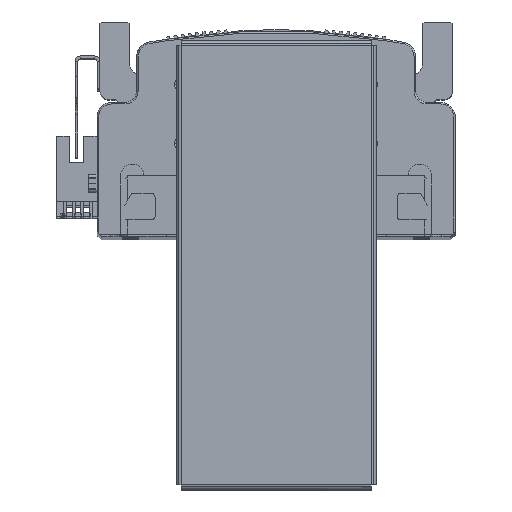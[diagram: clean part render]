
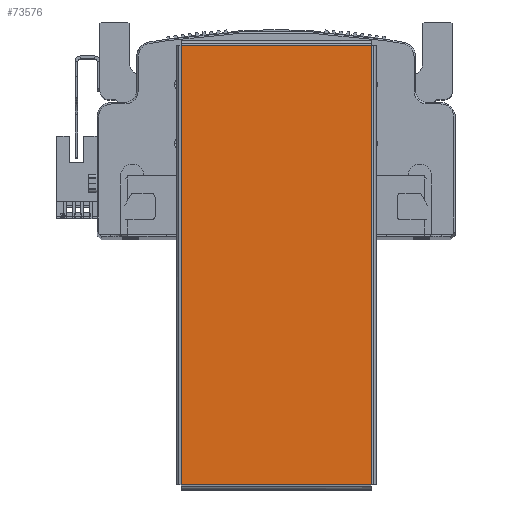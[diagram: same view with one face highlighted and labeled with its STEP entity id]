
A CAD part, top view. The second image highlights one B-rep face of the part: STEP entity #73576.
In plain terms, the highlighted planar face has unit normal (0, 0, 1) as drawn and (0, 0, -1) by its records, which use the part's own axes.
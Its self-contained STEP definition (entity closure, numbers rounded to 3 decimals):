
#2770 = EDGE_CURVE ( 'NONE', #13167, #13191, #32032, .T. ) ;
#2828 = EDGE_CURVE ( 'NONE', #13198, #13167, #64900, .T. ) ;
#2848 = EDGE_CURVE ( 'NONE', #13231, #13198, #64853, .T. ) ;
#2854 = EDGE_CURVE ( 'NONE', #13191, #13231, #64877, .T. ) ;
#8943 = CARTESIAN_POINT ( 'NONE',  ( 74.793, -32.363, -1. ) ) ;
#8944 = DIRECTION ( 'NONE',  ( -1., 0., 0. ) ) ;
#9251 = DIRECTION ( 'NONE',  ( 0., -1., 0. ) ) ;
#9317 = CARTESIAN_POINT ( 'NONE',  ( 74.763, 32.393, -1. ) ) ;
#9356 = DIRECTION ( 'NONE',  ( 1., 0., 0. ) ) ;
#9423 = CARTESIAN_POINT ( 'NONE',  ( -74.793, 32.363, -1. ) ) ;
#9459 = CARTESIAN_POINT ( 'NONE',  ( -74.763, -32.393, -1. ) ) ;
#9541 = DIRECTION ( 'NONE',  ( 0., 1., 0. ) ) ;
#13167 = VERTEX_POINT ( 'NONE', #48537 ) ;
#13191 = VERTEX_POINT ( 'NONE', #48670 ) ;
#13198 = VERTEX_POINT ( 'NONE', #48712 ) ;
#13231 = VERTEX_POINT ( 'NONE', #48795 ) ;
#31986 = VECTOR ( 'NONE', #8944, 1000. ) ;
#32032 = LINE ( 'NONE', #8943, #31986 ) ;
#40023 = EDGE_LOOP ( 'NONE', ( #47892, #47883, #47965, #47863 ) ) ;
#47863 = ORIENTED_EDGE ( 'NONE', *, *, #2848, .T. ) ;
#47883 = ORIENTED_EDGE ( 'NONE', *, *, #2770, .T. ) ;
#47892 = ORIENTED_EDGE ( 'NONE', *, *, #2828, .T. ) ;
#47965 = ORIENTED_EDGE ( 'NONE', *, *, #2854, .T. ) ;
#48537 = CARTESIAN_POINT ( 'NONE',  ( 74.763, -32.363, -1. ) ) ;
#48670 = CARTESIAN_POINT ( 'NONE',  ( -74.763, -32.363, -1. ) ) ;
#48712 = CARTESIAN_POINT ( 'NONE',  ( 74.763, 32.363, -1. ) ) ;
#48795 = CARTESIAN_POINT ( 'NONE',  ( -74.763, 32.363, -1. ) ) ;
#64853 = LINE ( 'NONE', #9423, #64866 ) ;
#64866 = VECTOR ( 'NONE', #9356, 1000. ) ;
#64868 = VECTOR ( 'NONE', #9541, 1000. ) ;
#64873 = VECTOR ( 'NONE', #9251, 1000. ) ;
#64877 = LINE ( 'NONE', #9459, #64868 ) ;
#64900 = LINE ( 'NONE', #9317, #64873 ) ;
#70355 = AXIS2_PLACEMENT_3D ( 'NONE', #76139, #76140, #76141 ) ;
#73576 = ADVANCED_FACE ( 'NONE', ( #76543 ), #76177, .F. ) ;
#76139 = CARTESIAN_POINT ( 'NONE',  ( 0., 0., -1. ) ) ;
#76140 = DIRECTION ( 'NONE',  ( 0., 0., 1. ) ) ;
#76141 = DIRECTION ( 'NONE',  ( 1., 0., 0. ) ) ;
#76177 = PLANE ( 'NONE',  #70355 ) ;
#76543 = FACE_OUTER_BOUND ( 'NONE', #40023, .T. ) ;
